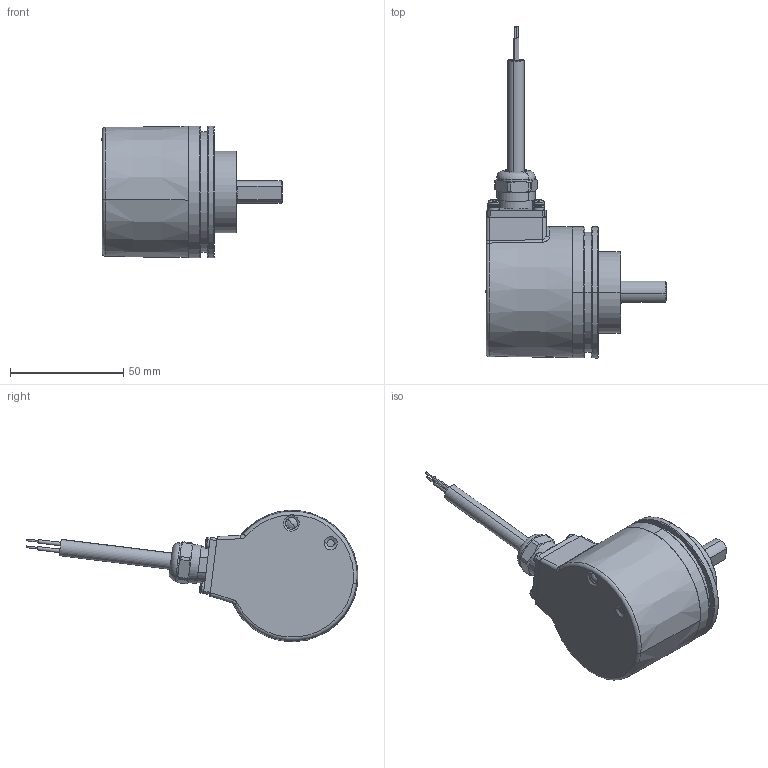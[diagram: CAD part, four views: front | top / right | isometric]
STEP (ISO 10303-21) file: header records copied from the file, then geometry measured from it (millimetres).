
FILE_DESCRIPTION (( 'STEP AP214' ), '1' );
FILE_NAME ('5863SIL.12X2.XXXX.STEP', '2010-11-03T07:38:27', ( 'admin' ), ( 'Fritz Kübler GmbH' ), 'SwSTEP 2.0', 'SolidWorks 2009', '' );
FILE_SCHEMA (( 'AUTOMOTIVE_DESIGN' ));
Length unit declared in the file: millimetre
Products named in the file (1): 5863SIL.12X2.XXXX
Bounding box: 79.6 x 146.55 x 58 mm (x, y, z)
Surface area: 24377.6 mm2 (no closed solid volume)
Topology: 0 solids, 13 shells, 249 faces, 630 edges, 403 vertices
Faces by surface type: plane 93, cylinder 71, cone 47, torus 22, sphere 10, bspline 6
Entity records: 11542 total; most frequent: CARTESIAN_POINT 2648, DIRECTION 1407, ORIENTED_EDGE 1158, EDGE_CURVE 630, AXIS2_PLACEMENT_3D 579, VERTEX_POINT 403, CIRCLE 335, EDGE_LOOP 284
